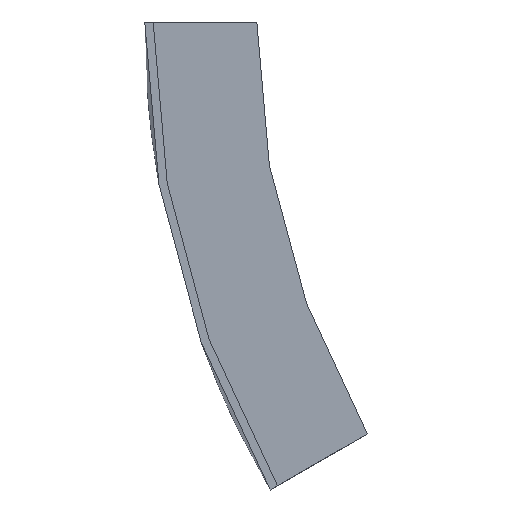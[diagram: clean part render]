
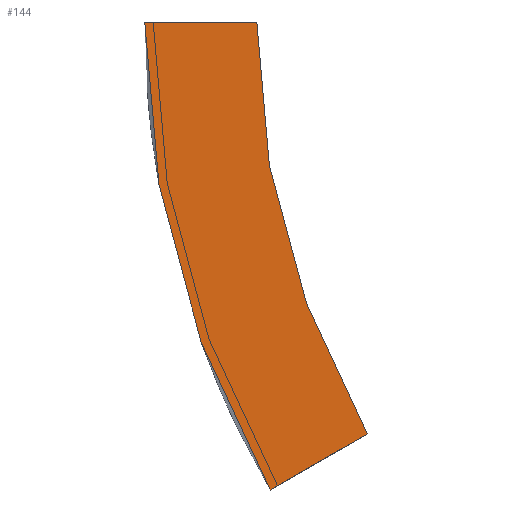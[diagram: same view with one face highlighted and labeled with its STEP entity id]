
A CAD part, left-side view. The second image highlights one B-rep face of the part: STEP entity #144.
In plain terms, the highlighted planar face has unit normal (-1, 0, 0).
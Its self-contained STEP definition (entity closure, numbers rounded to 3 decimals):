
#1 = ORIENTED_EDGE ( 'NONE', *, *, #77, .F. ) ;
#2 = CIRCLE ( 'NONE', #67, 147. ) ;
#42 = FACE_OUTER_BOUND ( 'NONE', #145, .T. ) ;
#66 = AXIS2_PLACEMENT_3D ( 'NONE', #389, #225, #591 ) ;
#67 = AXIS2_PLACEMENT_3D ( 'NONE', #80, #266, #121 ) ;
#72 = EDGE_CURVE ( 'NONE', #474, #392, #521, .T. ) ;
#77 = EDGE_CURVE ( 'NONE', #392, #224, #255, .T. ) ;
#80 = CARTESIAN_POINT ( 'NONE',  ( -303.5, -167., 0. ) ) ;
#121 = DIRECTION ( 'NONE',  ( 0., 0., -1. ) ) ;
#123 = LINE ( 'NONE', #128, #391 ) ;
#128 = CARTESIAN_POINT ( 'NONE',  ( -303.5, -20., 0. ) ) ;
#144 = ADVANCED_FACE ( 'NONE', ( #42 ), #220, .T. ) ;
#145 = EDGE_LOOP ( 'NONE', ( #1, #186, #213, #159 ) ) ;
#159 = ORIENTED_EDGE ( 'NONE', *, *, #481, .F. ) ;
#165 = EDGE_CURVE ( 'NONE', #319, #474, #2, .T. ) ;
#171 = DIRECTION ( 'NONE',  ( 0., -1., 0. ) ) ;
#186 = ORIENTED_EDGE ( 'NONE', *, *, #72, .F. ) ;
#192 = CARTESIAN_POINT ( 'NONE',  ( -303.5, 0., 0. ) ) ;
#206 = DIRECTION ( 'NONE',  ( 0., 0.866, -0.5 ) ) ;
#213 = ORIENTED_EDGE ( 'NONE', *, *, #165, .F. ) ;
#217 = DIRECTION ( 'NONE',  ( 0., 0., 1. ) ) ;
#220 = PLANE ( 'NONE',  #438 ) ;
#224 = VERTEX_POINT ( 'NONE', #192 ) ;
#225 = DIRECTION ( 'NONE',  ( 1., 0., 0. ) ) ;
#231 = CARTESIAN_POINT ( 'NONE',  ( -303.5, -167., 0. ) ) ;
#255 = CIRCLE ( 'NONE', #66, 167. ) ;
#266 = DIRECTION ( 'NONE',  ( -1., 0., 0. ) ) ;
#267 = CARTESIAN_POINT ( 'NONE',  ( -303.5, -22.374, -83.5 ) ) ;
#268 = DIRECTION ( 'NONE',  ( -1., 0., 0. ) ) ;
#290 = VECTOR ( 'NONE', #206, 1000. ) ;
#293 = CARTESIAN_POINT ( 'NONE',  ( -303.5, -39.694, -73.5 ) ) ;
#319 = VERTEX_POINT ( 'NONE', #518 ) ;
#389 = CARTESIAN_POINT ( 'NONE',  ( -303.5, -167., 0. ) ) ;
#391 = VECTOR ( 'NONE', #171, 1000. ) ;
#392 = VERTEX_POINT ( 'NONE', #267 ) ;
#432 = CARTESIAN_POINT ( 'NONE',  ( -303.5, -39.694, -73.5 ) ) ;
#438 = AXIS2_PLACEMENT_3D ( 'NONE', #231, #268, #217 ) ;
#474 = VERTEX_POINT ( 'NONE', #293 ) ;
#481 = EDGE_CURVE ( 'NONE', #224, #319, #123, .T. ) ;
#518 = CARTESIAN_POINT ( 'NONE',  ( -303.5, -20., 0. ) ) ;
#521 = LINE ( 'NONE', #432, #290 ) ;
#591 = DIRECTION ( 'NONE',  ( 0., 0., 1. ) ) ;
